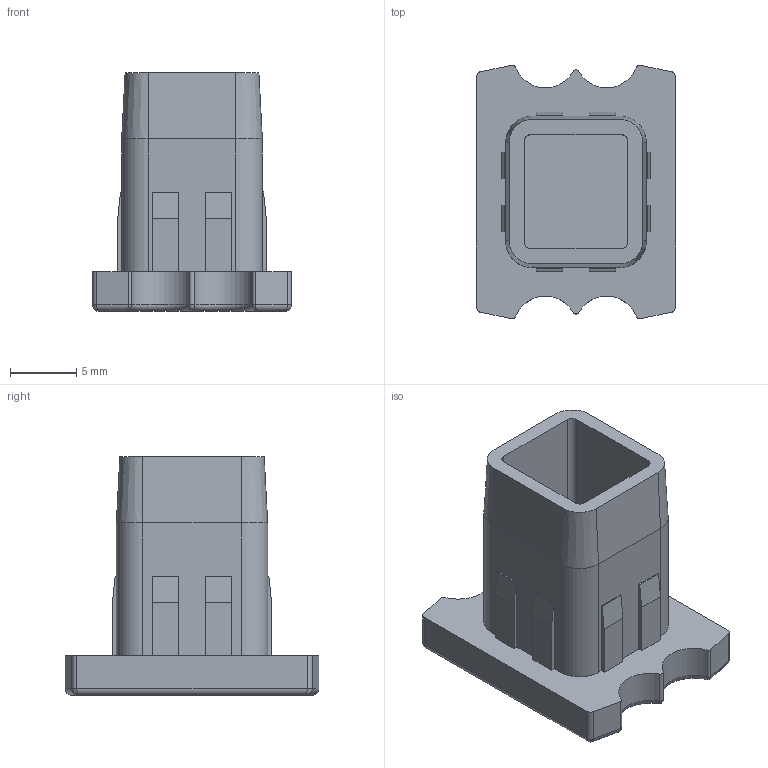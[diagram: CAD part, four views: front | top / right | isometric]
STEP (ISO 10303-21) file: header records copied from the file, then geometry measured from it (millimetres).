
FILE_DESCRIPTION (( 'STEP AP214' ), '1' );
FILE_NAME ('FGEC 15x20.step', '2017-04-05T07:37:04', ( '' ), ( '' ), 'SwSTEP 2.0', 'SolidWorks 2015', '' );
FILE_SCHEMA (( 'AUTOMOTIVE_DESIGN' ));
Length unit declared in the file: millimetre
Products named in the file (1): FGEC 15x20
Bounding box: 15 x 19.13 x 18 mm (x, y, z)
Volume: 1534.8 mm3; surface area: 1813.3 mm2
Topology: 1 solids, 1 shells, 108 faces, 284 edges, 170 vertices
Faces by surface type: plane 62, cylinder 28, bspline 10, cone 4, torus 4
Entity records: 3502 total; most frequent: CARTESIAN_POINT 923, ORIENTED_EDGE 548, DIRECTION 504, EDGE_CURVE 274, VECTOR 202, LINE 202, VERTEX_POINT 170, AXIS2_PLACEMENT_3D 151
